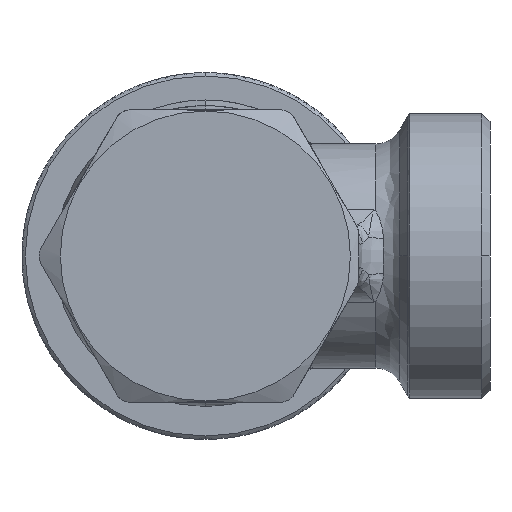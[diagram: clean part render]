
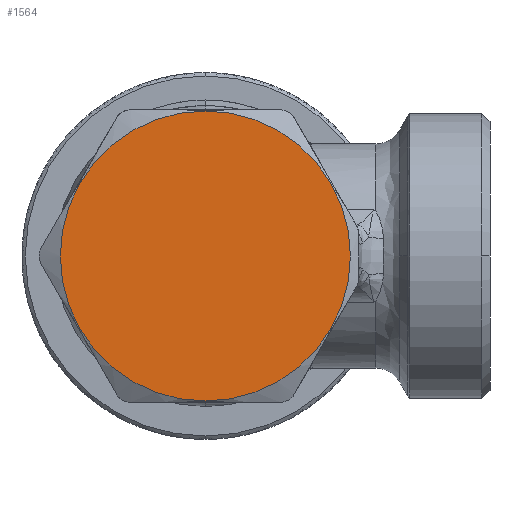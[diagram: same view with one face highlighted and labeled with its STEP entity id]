
A CAD part, front view. The second image highlights one B-rep face of the part: STEP entity #1564.
In plain terms, the highlighted planar face has unit normal (0, -1, 0).
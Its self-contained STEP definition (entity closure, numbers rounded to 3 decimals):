
#1564 = ADVANCED_FACE ( 'NONE', ( #18914 ), #2794, .F. ) ;
#2602 = CARTESIAN_POINT ( 'NONE',  ( -13.25, -24., 0. ) ) ;
#2794 = PLANE ( 'NONE',  #23446 ) ;
#3035 = CARTESIAN_POINT ( 'NONE',  ( 0., -24., 13.25 ) ) ;
#5087 = CARTESIAN_POINT ( 'NONE',  ( 0., -24., -13.25 ) ) ;
#5380 = DIRECTION ( 'NONE',  ( 0., 1., 0. ) ) ;
#8076 = AXIS2_PLACEMENT_3D ( 'NONE', #15217, #8807, #28248 ) ;
#8807 = DIRECTION ( 'NONE',  ( 0., 1., 0. ) ) ;
#9294 = DIRECTION ( 'NONE',  ( 0., 1., 0. ) ) ;
#9746 = CIRCLE ( 'NONE', #16257, 13.25 ) ;
#12381 = VERTEX_POINT ( 'NONE', #5087 ) ;
#13599 = CIRCLE ( 'NONE', #8076, 13.25 ) ;
#15217 = CARTESIAN_POINT ( 'NONE',  ( 0., -24., 0. ) ) ;
#16198 = CARTESIAN_POINT ( 'NONE',  ( 0., -24., 0. ) ) ;
#16257 = AXIS2_PLACEMENT_3D ( 'NONE', #16198, #5380, #18395 ) ;
#16646 = EDGE_CURVE ( 'NONE', #12381, #16649, #9746, .T. ) ;
#16649 = VERTEX_POINT ( 'NONE', #3035 ) ;
#17146 = ORIENTED_EDGE ( 'NONE', *, *, #16646, .F. ) ;
#18395 = DIRECTION ( 'NONE',  ( 0., 0., 1. ) ) ;
#18914 = FACE_OUTER_BOUND ( 'NONE', #19302, .T. ) ;
#19302 = EDGE_LOOP ( 'NONE', ( #26649, #17146 ) ) ;
#23446 = AXIS2_PLACEMENT_3D ( 'NONE', #2602, #9294, #26825 ) ;
#26649 = ORIENTED_EDGE ( 'NONE', *, *, #26738, .F. ) ;
#26738 = EDGE_CURVE ( 'NONE', #16649, #12381, #13599, .T. ) ;
#26825 = DIRECTION ( 'NONE',  ( 0., 0., 1. ) ) ;
#28248 = DIRECTION ( 'NONE',  ( 0., 0., 1. ) ) ;
